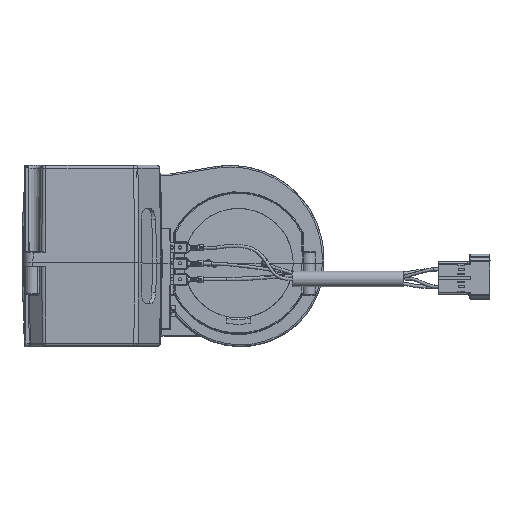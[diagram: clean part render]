
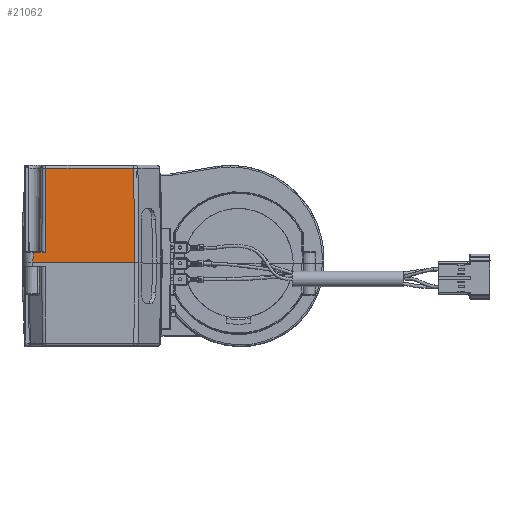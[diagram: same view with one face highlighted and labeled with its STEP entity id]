
A CAD part, top view. The second image highlights one B-rep face of the part: STEP entity #21062.
In plain terms, the highlighted planar face has unit normal (0, 0.018, 1).
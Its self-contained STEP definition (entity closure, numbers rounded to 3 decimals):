
#21062=ADVANCED_FACE('',(#36925),#36926,.T.);
#36925=FACE_OUTER_BOUND('',#67518,.T.);
#36926=PLANE('',#67519);
#67518=EDGE_LOOP('',(#111957,#111958,#111959,#111960,#111961,#111962,#111963));
#67519=AXIS2_PLACEMENT_3D('',#111964,#111965,#111966);
#111957=ORIENTED_EDGE('',*,*,#144937,.T.);
#111958=ORIENTED_EDGE('',*,*,#144938,.T.);
#111959=ORIENTED_EDGE('',*,*,#132741,.T.);
#111960=ORIENTED_EDGE('',*,*,#141944,.F.);
#111961=ORIENTED_EDGE('',*,*,#141256,.T.);
#111962=ORIENTED_EDGE('',*,*,#144939,.T.);
#111963=ORIENTED_EDGE('',*,*,#144940,.T.);
#111964=CARTESIAN_POINT('',(-892.868,0.0,97.5));
#111965=DIRECTION('',(0.0,0.017,1.));
#111966=DIRECTION('',(0.0,-1.,0.017));
#132741=EDGE_CURVE('',#153208,#153217,#153219,.T.);
#141256=EDGE_CURVE('',#167141,#167139,#167142,.T.);
#141944=EDGE_CURVE('',#167141,#153217,#168156,.T.);
#144937=EDGE_CURVE('',#172484,#172485,#172486,.T.);
#144938=EDGE_CURVE('',#172485,#153208,#172487,.F.);
#144939=EDGE_CURVE('',#167139,#172488,#172489,.T.);
#144940=EDGE_CURVE('',#172488,#172484,#172490,.T.);
#153208=VERTEX_POINT('',#186528);
#153217=VERTEX_POINT('',#186550);
#153219=B_SPLINE_CURVE_WITH_KNOTS('',3,(#186552,#186553,#186554,#186555),.UNSPECIFIED.,.F.,.F.,(4,4),(0.0,0.),.UNSPECIFIED.);
#167139=VERTEX_POINT('',#221371);
#167141=VERTEX_POINT('',#221373);
#167142=LINE('',#221374,#221375);
#168156=ELLIPSE('',#223714,286.493,5.0);
#172484=VERTEX_POINT('',#234719);
#172485=VERTEX_POINT('',#234720);
#172486=LINE('',#234721,#234722);
#172487=LINE('',#234723,#234724);
#172488=VERTEX_POINT('',#234725);
#172489=LINE('',#234726,#234727);
#172490=LINE('',#234728,#234729);
#186528=CARTESIAN_POINT('',(-128.941,6.509,97.386));
#186550=CARTESIAN_POINT('',(-128.941,6.5,97.387));
#186552=CARTESIAN_POINT('',(-128.941,6.509,97.386));
#186553=CARTESIAN_POINT('',(-128.941,6.506,97.386));
#186554=CARTESIAN_POINT('',(-128.941,6.503,97.386));
#186555=CARTESIAN_POINT('',(-128.941,6.5,97.387));
#221371=CARTESIAN_POINT('',(-65.324,0.0,97.5));
#221373=CARTESIAN_POINT('',(-130.0,0.,97.5));
#221374=CARTESIAN_POINT('',(-892.868,0.0,97.5));
#221375=VECTOR('',#257926,1.0);
#223714=AXIS2_PLACEMENT_3D('',#258462,#258463,#258464);
#234719=CARTESIAN_POINT('',(-121.326,59.645,96.459));
#234720=CARTESIAN_POINT('',(-121.71,6.509,97.386));
#234721=CARTESIAN_POINT('',(-121.798,-5.573,97.597));
#234722=VECTOR('',#260394,1.0);
#234723=CARTESIAN_POINT('',(-892.868,6.509,97.386));
#234724=VECTOR('',#260395,1.0);
#234725=CARTESIAN_POINT('',(-65.967,59.645,96.459));
#234726=CARTESIAN_POINT('',(-65.42,8.924,97.344));
#234727=VECTOR('',#260396,1.0);
#234728=CARTESIAN_POINT('',(-892.868,59.645,96.459));
#234729=VECTOR('',#260397,1.0);
#257926=DIRECTION('',(1.0,0.0,0.0));
#258462=CARTESIAN_POINT('',(-130.0,286.45,92.5));
#258463=DIRECTION('',(0.,0.017,1.));
#258464=DIRECTION('',(0.,1.,-0.017));
#260394=DIRECTION('',(-0.007,-1.,0.017));
#260395=DIRECTION('',(1.0,0.,0.));
#260396=DIRECTION('',(-0.011,1.,-0.017));
#260397=DIRECTION('',(-1.0,0.0,0.0));
